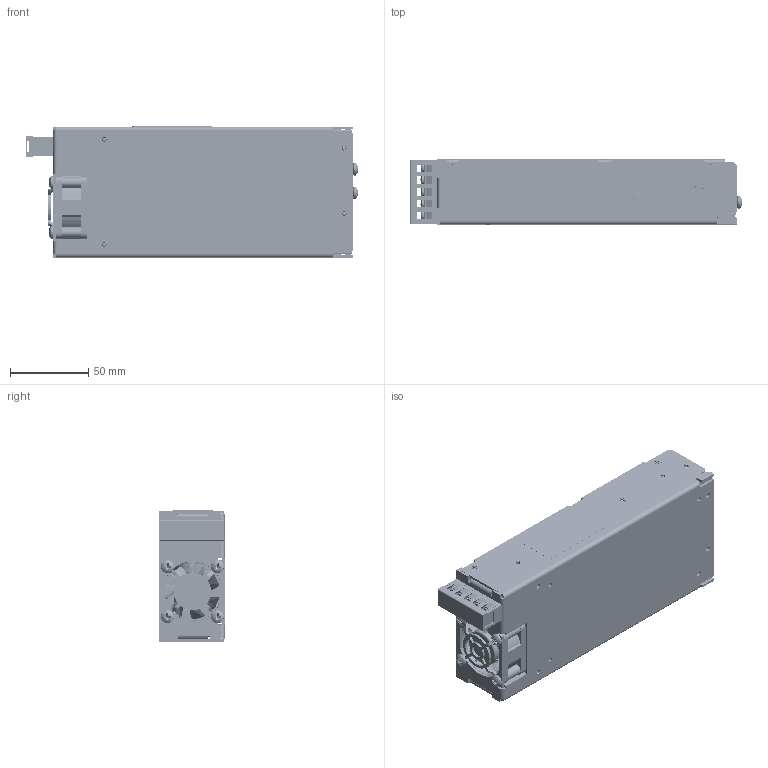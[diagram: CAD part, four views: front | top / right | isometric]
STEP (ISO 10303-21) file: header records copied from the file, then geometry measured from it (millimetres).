
FILE_DESCRIPTION (( 'STEP AP214' ), '1' );
FILE_NAME ('GCU500-EF (24-48V) Rev-B.STEP', '2017-10-16T17:12:26', ( '' ), ( '' ), 'SwSTEP 2.0', 'SolidWorks 2016', '' );
FILE_SCHEMA (( 'AUTOMOTIVE_DESIGN' ));
Length unit declared in the file: inch
Products named in the file (77): CON MLX  .156 3P; Inductor Toroid_18mm OD_8.0 mm Width; 10019992B0; Washer_Square_Cone_M3_8mm od_01; Capacitor Elec_16mm D_30mm; ASSY F1 F2; INSULATOR SIL PAD 1.4x1.25; SCREW_PPH_M3_01_6mm; CAP FILM_14_5x7_7x12MM_12_7LS; Littelfuse 5mm x 20mm; 10020013B0 (Insulator Chassis GCU500 24-48V); ASSY PCB GCU500 24-48V; PQ3230 12pin; 10008152 RevA Fuse Holder; Capacitor Disc_0.500 D_0.400" C; ASSY HTSK PRI 2 GCU500; Insulator cover 16.7mm x 15mm lg; 10022066-B0 (Assy Fan_Chassis 24-48V) GCU500-EF; Capacitor Disc_0.550 D_0.300" C; 10021741A0; Spacer_push Pcb_3mmH_0.125"; Faston .25 X .032; 10020016A0; ASSY HTSK SEC GCU500; Torx screw_06_16212427 M3 X 12MM; Capacitor Disc_0.300 D X .40 LS; ASSY HTSK PRI 1 GCU500; 10015358A0; jb-DT-2C-A02W-03; Conn_MLX_KK100_Hdr_02P; TO220_3P_01; LABEL 2X1; 10020017A0; Screw_Pan Head_no 8_01_.375"; Capacitor Elec_10mm D_25mm; TO220_2P_01; Screw m4X8mm PPH SQCONE_90317A165; CAP DISC_0.200CT_1; FAN 40X20MM_JP; EF16_H_9P XFMR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
Assembly tree (120 placements, depth 4):
  GCU500-EF (24-48V) Rev-B
    10022066-B0 (Assy Fan_Chassis 24-48V) GCU500-EF
      10020898-B0 (Chassis 24-48V GCU500-EF)
      FAN 40X20MM_JP
      Screw_Pan Head_no 8_01_.375"  x4
      jb-DT-2C-A02W-03
      Torx screw_06_16212427 M3 X 12MM  x2
    10020013B0 (Insulator Chassis GCU500 24-48V)
    INSULATOR SIL PAD 1.4x1.25
    ASSY PCB GCU500 24-48V
      10019992B0
      PQ2625 4pin  x2
      10021027A0  x2
        BASEPLATE 01 0.4x0.95x0.032
        Inductor Toroid_25.0mm OD_10mm Width
      10020018A0  x2
      10021740A0
        Inductor Toroid_8.0mm OD_3.5mm Width
        BASEPLATE 01 0.2x0.3x0.032
      ASSY HTSK PRI 1 GCU500
        10020015B0
        10021742A0
        TO220_2P_01
        TO220_3P_01  x3
      ASSY HTSK PRI 2 GCU500
        10020016A0
        10021741A0
        TO220_3P_01  x2
      PQ3230 12pin
      CAP FILM_14_5x7_7x12MM_12_7LS  x2
      Capacitor Elec_16mm D_30mm  x4
      CON MLX  .156 3P
      RELAY FORM A 18x10x15
      CAP FILM_17x11x21MM_15LS
      Diode_DO201AD_V1
      Xxmr_bias_900x900x660_14p1
      Conn_JST_S10B-PHDSS-B_Vertical
      Flat Head Phillips (Metric)_(1313)_M3 x 6  x2
      Bridge Rectifier_GBU6K
      Capacitor Film_12x5mm_10 LS  x3
      CAP DISC_0.200CT_1
      ASSY HTSK SEC GCU500
        10020017A0
        10015358A0
        TO220_3P_01  x2
      Spacer_push Pcb_3mmH_0.125"  x2
      Insulator cover 16.7mm x 15mm lg  x2
      ASSY F1 F2
        10008152 RevA Fuse Holder
        Littelfuse 5mm x 20mm  x2
      ASSY EMI GCU500
        Inductor Toroid_18mm OD_8.0 mm Width
        Capacitor Film_18x11mm_15 LS_19mm H  x2
        BASE EMI GCU500
      Pot_Top adj_Type1_01
      Capacitor Elec_08mm D_13mm H  x2
      Capacitor Elec_10mm D_13mm H
      Choke Output Rod
      Capacitor Elec_06.3mm D_13mm H
      Capacitor Elec_05mm D_11mm H
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Bounding box: 212.6 x 41.73 x 83.95 mm (x, y, z)
Volume: 263728 mm3; surface area: 319445 mm2
Topology: 147 solids, 174 shells, 7220 faces, 18245 edges, 11614 vertices
Faces by surface type: plane 3987, cylinder 2078, torus 408, cone 375, bspline 318, sphere 54
Entity records: 190758 total; most frequent: CARTESIAN_POINT 39078, DIRECTION 27295, ORIENTED_EDGE 27086, EDGE_CURVE 13543, AXIS2_PLACEMENT_3D 9185, VECTOR 8925, LINE 8925, VERTEX_POINT 8739
